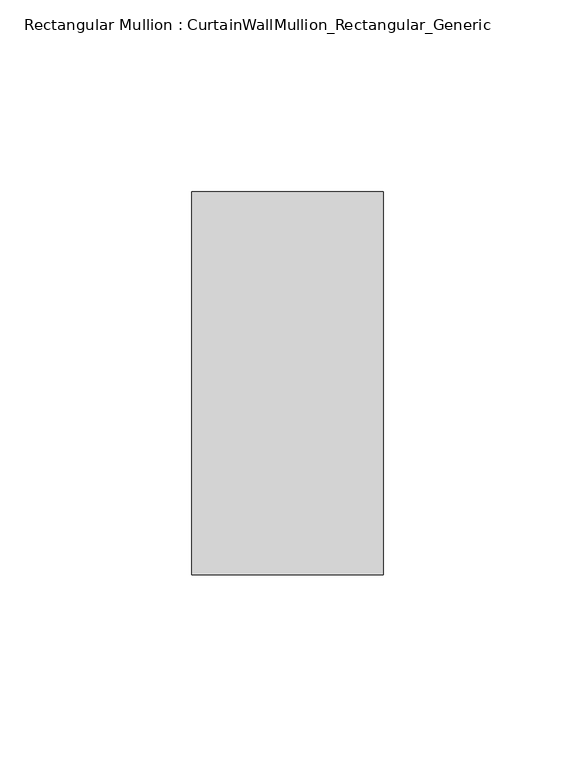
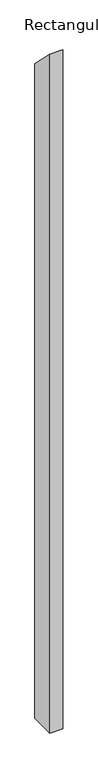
"""IFC4 building model written with IfcOpenShell, lengths in millimetres: member geometry, Rectangular Mullion : CurtainWallMullion_Rectangular_Generic."""

from ifc_helpers import new_model, si_unit, frame, origin, place, context, project, spatial, polyline, outline, extrude, source, transform, mapped, element, save


def rectangular_mullion_curtainwallmullion_rectangular_generic_0a5b04f7(model_context):
    return source(origin(), model_context, "Body", "SweptSolid", [
        extrude(outline(polyline([(-50.0, 50.0), (50.0, -50.0), (50.0, -2727.0000001), (-50.0, -2727.0000001), (-50.0, 50.0)])), frame((-50.0, 0.0, 0.0), z_axis=(1.0, 0.0, 0.0), x_axis=(0.0, 1.0, 0.0)), (0.0, 0.0, 1.0), 50.0),
    ])


if __name__ == "__main__":
    model = new_model("IFC4")
    model_context = context("Model", 3, world=origin())
    ifc_project = project(units=[si_unit("LENGTHUNIT", "METRE", prefix="MILLI")], contexts=[model_context])
    site = spatial("IfcSite", under=ifc_project)
    building = spatial("IfcBuilding", under=site)
    placement = place(None, origin())
    rectangular_mullion_curtainwallmullion_rectangular_generic_shape = rectangular_mullion_curtainwallmullion_rectangular_generic_0a5b04f7(model_context)
    element("IfcMember", 1, ObjectType="Rectangular Mullion : CurtainWallMullion_Rectangular_Generic", at=placement, inside=building, context=model_context, shape_type="MappedRepresentation", body=[
        mapped(rectangular_mullion_curtainwallmullion_rectangular_generic_shape, transform((0.0, 0.0, 0.0), x_axis=(1.0, 0.0, 0.0), y_axis=(0.0, 1.0, 0.0), z_axis=(0.0, 0.0, 1.0))),
    ])
    save(model, "model.ifc")
